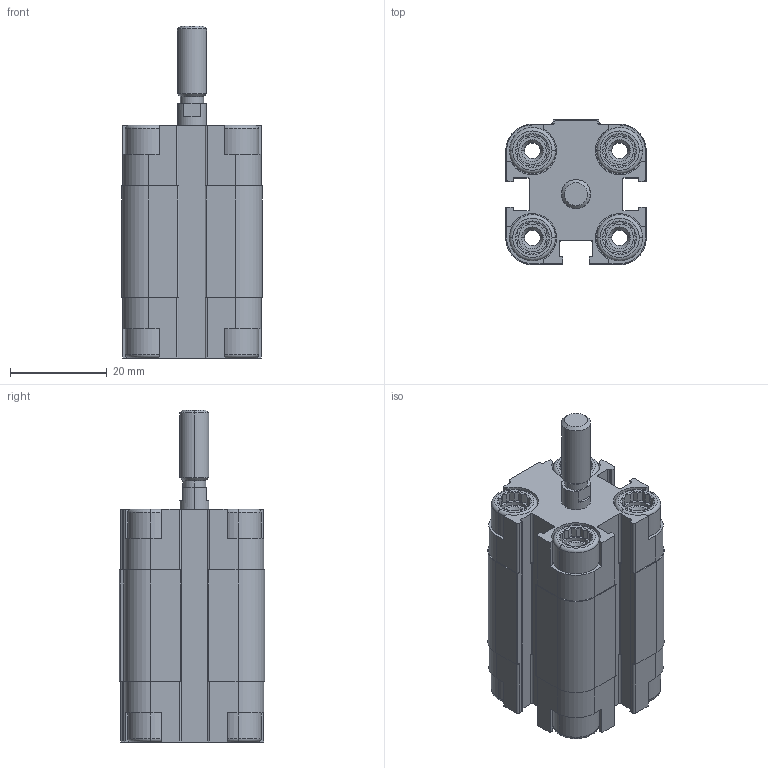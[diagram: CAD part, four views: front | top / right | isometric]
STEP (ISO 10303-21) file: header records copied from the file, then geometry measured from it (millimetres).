
FILE_DESCRIPTION (( 'STEP AP203' ), '1' );
FILE_NAME ('CDVU12-10.STEP', '2020-03-18T10:32:38', ( '' ), ( '' ), 'SwSTEP 2.0', 'SolidWorks 2019', '' );
FILE_SCHEMA (( 'CONFIG_CONTROL_DESIGN' ));
Length unit declared in the file: millimetre
Products named in the file (1): CDVU12-10
Bounding box: 29 x 30 x 68.5 mm (x, y, z)
Volume: 30202.2 mm3; surface area: 15266.3 mm2
Topology: 2 solids, 2 shells, 553 faces, 1472 edges, 958 vertices
Faces by surface type: plane 333, cylinder 158, cone 46, torus 16
Entity records: 17381 total; most frequent: CARTESIAN_POINT 3556, ORIENTED_EDGE 2936, DIRECTION 2776, EDGE_CURVE 1468, VERTEX_POINT 958, AXIS2_PLACEMENT_3D 946, VECTOR 884, LINE 884
